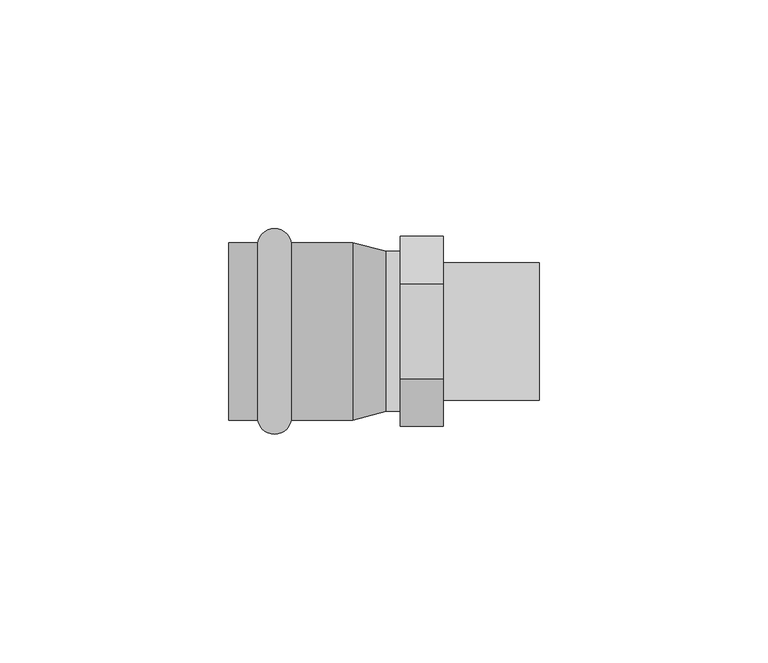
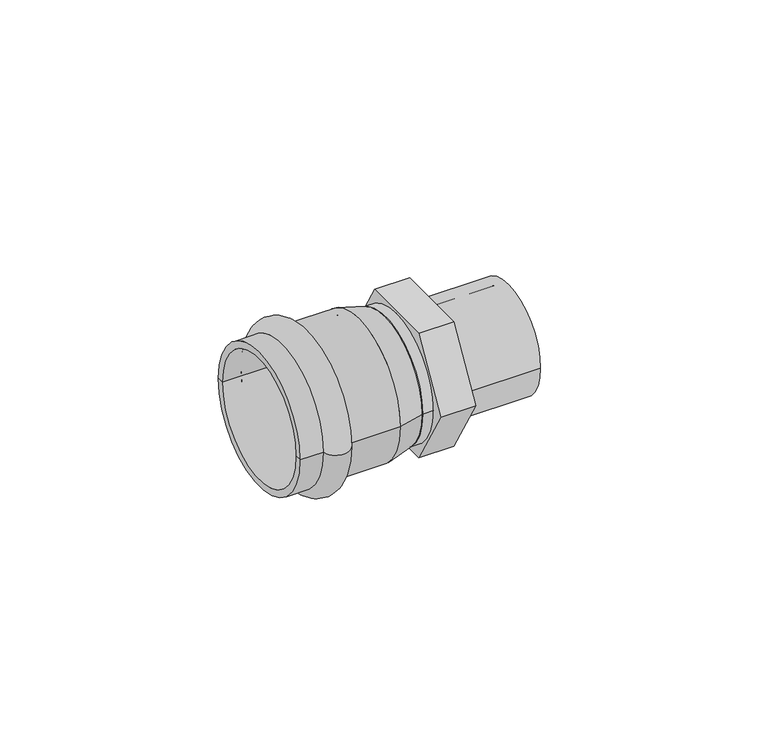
"""IFC4 building model written with IfcOpenShell, lengths in millimetres: pipe fitting geometry, VALTEC_VTi.901.I_Соединитель прямой с переходом на наружную резьбу_Нержавеющая сталь : VTi.901.I."""

from ifc_helpers import new_model, si_unit, point, frame, origin, origin_2d, place, context, project, spatial, polyline, circle_curve, ellipse_curve, trimmed, segment, composite_curve, outline, extrude, source, transform, mapped, element, save
from ifc_brep_helpers import plane_surface, cylinder_surface, revolved_surface, advanced_brep


def pipe_fitting_b22dd160(model_context):
    return source(origin(), model_context, "Body", "SolidModel", [
        advanced_brep(
        [(-35.9132371, -19.4, 0.0), (-35.9132371, 19.4, 0.0), (-28.5267629, 19.4, 0.0), (-28.5267629, -19.4, 0.0), (-42.27, -19.4, 0.0), (-42.27, 19.4, 0.0), (-42.27, -17.5, 0.0), (-42.27, 17.5, 0.0), (-15.07, -17.5, 0.0), (-15.07, 17.5, 0.0), (-15.07, -19.4, 0.0), (-15.07, 19.4, 0.0)],
        [
            (0, 1, circle_curve(frame((-35.9132371, 0.0, 0.0), z_axis=(1.0, 0.0, 0.0), x_axis=(0.0, 1.0, 0.0)), 19.4)),
            (1, 2, circle_curve(frame((-32.22, 18.75, 0.0), z_axis=(0.0, 0.0, -1.0), x_axis=(1.0, 0.0, 0.0)), 3.75)),
            (2, 3, circle_curve(frame((-28.5267629, 0.0, 0.0), z_axis=(-1.0, 0.0, 0.0), x_axis=(0.0, 1.0, 0.0)), 19.4)),
            (3, 0, circle_curve(frame((-32.22, -18.75, 0.0), z_axis=(0.0, 0.0, -1.0), x_axis=(1.0, 0.0, 0.0)), 3.75)),
            (1, 0, circle_curve(frame((-35.9132371, 0.0, 0.0), z_axis=(1.0, 0.0, 0.0), x_axis=(0.0, 1.0, 0.0)), 19.4)),
            (3, 2, circle_curve(frame((-28.5267629, 0.0, 0.0), z_axis=(-1.0, 0.0, 0.0), x_axis=(0.0, 1.0, 0.0)), 19.4)),
            (4, 5, circle_curve(frame((-42.27, 0.0, 0.0), z_axis=(1.0, 0.0, 0.0), x_axis=(0.0, 1.0, 0.0)), 19.4)),
            (5, 1),
            (0, 4),
            (5, 4, circle_curve(frame((-42.27, 0.0, 0.0), z_axis=(1.0, 0.0, 0.0), x_axis=(0.0, 1.0, 0.0)), 19.4)),
            (6, 7, circle_curve(frame((-42.27, 0.0, 0.0), z_axis=(1.0, 0.0, 0.0), x_axis=(0.0, 1.0, 0.0)), 17.5)),
            (7, 5),
            (4, 6),
            (7, 6, circle_curve(frame((-42.27, 0.0, 0.0), z_axis=(1.0, 0.0, 0.0), x_axis=(0.0, 1.0, 0.0)), 17.5)),
            (8, 9, circle_curve(frame((-15.07, 0.0, 0.0), z_axis=(1.0, 0.0, 0.0), x_axis=(0.0, 1.0, 0.0)), 17.5)),
            (9, 7),
            (6, 8),
            (9, 8, circle_curve(frame((-15.07, 0.0, 0.0), z_axis=(1.0, 0.0, 0.0), x_axis=(0.0, 1.0, 0.0)), 17.5)),
            (10, 11, circle_curve(frame((-15.07, 0.0, 0.0), z_axis=(1.0, 0.0, 0.0), x_axis=(0.0, 1.0, 0.0)), 19.4)),
            (11, 9),
            (8, 10),
            (11, 10, circle_curve(frame((-15.07, 0.0, 0.0), z_axis=(1.0, 0.0, 0.0), x_axis=(0.0, 1.0, 0.0)), 19.4)),
            (2, 11),
            (10, 3),
        ],
        [
            revolved_surface(trimmed(ellipse_curve(frame((-32.22, 18.75, 0.0), z_axis=(0.0, 0.0, 1.0), x_axis=(1.0, 0.0, 0.0)), 3.75, 3.75), [point((-28.5267629, 19.4, 0.0))], [point((-35.9132371, 19.4, 0.0))], True, "CARTESIAN"), (-45.8064426, 0.0, 0.0), (-1.0, 0.0, 0.0)),
            cylinder_surface(frame((-45.8064426, 0.0, 0.0), z_axis=(-1.0, 0.0, 0.0), x_axis=(0.0, 1.0, 0.0)), 19.4),
            plane_surface(frame((-42.27, 0.0, 0.0), z_axis=(-1.0, 0.0, 0.0), x_axis=(0.0, 1.0, 0.0))),
            revolved_surface(polyline([(-42.27, 17.5, 0.0), (-15.07, 17.5, 0.0)]), (-45.8064426, 0.0, 0.0), (-1.0, 0.0, 0.0)),
            plane_surface(frame((-15.07, 0.0, 0.0), z_axis=(1.0, 0.0, 0.0), x_axis=(0.0, 1.0, 0.0))),
        ],
        [
            (0, [[1, 2, 3, 4]]),
            (0, [[5, -4, 6, -2]]),
            (1, [[7, 8, -1, 9]]),
            (1, [[10, -9, -5, -8]]),
            (2, [[11, 12, -7, 13]]),
            (2, [[14, -13, -10, -12]]),
            (3, [[15, 16, -11, 17]]),
            (3, [[18, -17, -14, -16]]),
            (4, [[19, 20, -15, 21]]),
            (4, [[22, -21, -18, -20]]),
            (1, [[-3, 23, -19, 24]]),
            (1, [[-6, -24, -22, -23]]),
        ],
    ),
        extrude(outline(polyline([(-20.7846097, 0.0), (-10.3923048, 18.0), (10.3923048, 18.0), (20.7846097, 0.0), (10.3923048, -18.0), (-10.3923048, -18.0), (-20.7846097, 0.0)])), frame((-4.73, 0.0, 0.0), z_axis=(1.0, 0.0, 0.0), x_axis=(0.0, 1.0, 0.0)), (0.0, 0.0, 1.0), 9.46),
        extrude(outline(composite_curve([segment(trimmed(circle_curve(origin_2d(), 17.5), [point((-17.5, 0.0))], [point((17.5, 0.0))], False, "CARTESIAN"), True, "CONTINUOUS"), segment(trimmed(circle_curve(origin_2d(), 17.5), [point((17.5, 0.0))], [point((-17.5, 0.0))], False, "CARTESIAN"), True, "CONTINUOUS")], self_intersect=False)), frame((-7.8183127, 0.0, 0.0), z_axis=(1.0, 0.0, 0.0), x_axis=(0.0, 1.0, 0.0)), (0.0, 0.0, 1.0), 3.0883127),
        advanced_brep(
        [(-15.07, -19.4, 0.0), (-15.07, 19.4, 0.0), (-7.8183127, -17.5, 0.0), (-7.8183127, 17.5, 0.0)],
        [
            (0, 1, circle_curve(frame((-15.07, 0.0, 0.0), z_axis=(-1.0, 0.0, 0.0), x_axis=(0.0, -1.0, 0.0)), 19.4)),
            (1, 0, circle_curve(frame((-15.07, 0.0, 0.0), z_axis=(-1.0, 0.0, 0.0), x_axis=(0.0, 1.0, 0.0)), 19.4)),
            (2, 3, circle_curve(frame((-7.8183127, 0.0, 0.0), z_axis=(1.0, 0.0, 0.0), x_axis=(0.0, 1.0, 0.0)), 17.5)),
            (3, 2, circle_curve(frame((-7.8183127, 0.0, 0.0), z_axis=(1.0, 0.0, 0.0), x_axis=(0.0, -1.0, 0.0)), 17.5)),
            (2, 0),
            (1, 3),
        ],
        [
            plane_surface(frame((-15.07, 0.0, 0.0), z_axis=(-1.0, 0.0, 0.0), x_axis=(0.0, 0.0, -1.0))),
            plane_surface(frame((-7.8183127, 0.0, 0.0), z_axis=(1.0, 0.0, 0.0), x_axis=(0.0, 0.0, -1.0))),
            revolved_surface(polyline([(-7.8183127, -17.500000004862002, 0.0), (-15.07, -19.4, 0.0)]), (58.9735442, 0.0, 0.0), (-1.0, 0.0, 0.0)),
            revolved_surface(polyline([(-7.8183127, 17.500000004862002, 0.0), (-15.07, 19.4, 0.0)]), (58.9735442, 0.0, 0.0), (-1.0, 0.0, 0.0)),
        ],
        [
            (0, [[1, 2]]),
            (1, [[3, 4]]),
            (2, [[-3, 5, -2, 6]]),
            (3, [[-4, -6, -1, -5]]),
        ],
    ),
        extrude(outline(composite_curve([segment(trimmed(circle_curve(origin_2d(), 15.0), [point((-15.0, 0.0))], [point((15.0, 0.0))], False, "CARTESIAN"), True, "CONTINUOUS"), segment(trimmed(circle_curve(origin_2d(), 15.0), [point((15.0, 0.0))], [point((-15.0, 0.0))], False, "CARTESIAN"), True, "CONTINUOUS")], self_intersect=False), holes=[composite_curve([segment(trimmed(circle_curve(origin_2d(), 12.5), [point((-12.5, 0.0))], [point((12.5, 0.0))], True, "CARTESIAN"), True, "CONTINUOUS"), segment(trimmed(circle_curve(origin_2d(), 12.5), [point((12.5, 0.0))], [point((-12.5, 0.0))], True, "CARTESIAN"), True, "CONTINUOUS")], self_intersect=False)]), frame((4.73, 0.0, 0.0), z_axis=(1.0, 0.0, 0.0), x_axis=(0.0, 1.0, 0.0)), (0.0, 0.0, 1.0), 21.0),
    ])


if __name__ == "__main__":
    model = new_model("IFC4")
    model_context = context("Model", 3, world=origin())
    ifc_project = project(units=[si_unit("LENGTHUNIT", "METRE", prefix="MILLI")], contexts=[model_context])
    site = spatial("IfcSite", under=ifc_project)
    building = spatial("IfcBuilding", under=site)
    placement = place(None, origin())
    pipe_fitting_shape = pipe_fitting_b22dd160(model_context)
    element("IfcPipeFitting", 1, ObjectType="VALTEC_VTi.901.I_Соединитель прямой с переходом на наружную резьбу_Нержавеющая сталь : VTi.901.I", at=placement, inside=building, context=model_context, shape_type="MappedRepresentation", body=[
        mapped(pipe_fitting_shape, transform((0.0, 0.0, 0.0), x_axis=(1.0, 0.0, 0.0), y_axis=(0.0, 1.0, 0.0), z_axis=(0.0, 0.0, 1.0))),
    ])
    save(model, "model.ifc")
